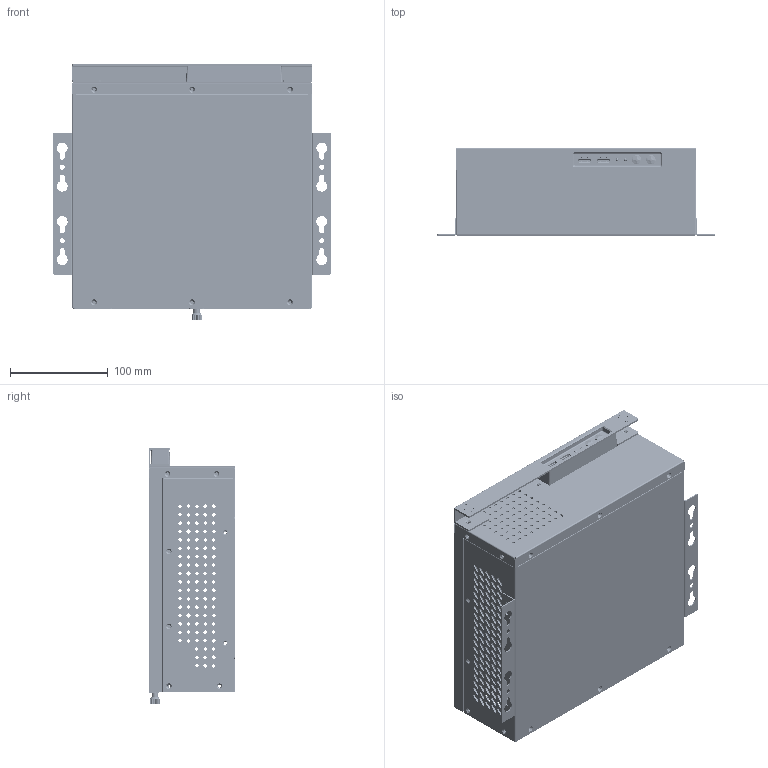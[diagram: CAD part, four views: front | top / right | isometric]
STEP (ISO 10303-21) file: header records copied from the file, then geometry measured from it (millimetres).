
FILE_DESCRIPTION((''),'2;1');
FILE_NAME('IPC-110_ASM_ASM','2024-11-11T17:05:15',('gcuser'),(''),'CREO PARAMETRIC BY PTC INC, 2023073','CREO PARAMETRIC BY PTC INC, 2023073','');
FILE_SCHEMA(('AUTOMOTIVE_DESIGN { 1 0 10303 214 1 1 1 1 }'));
Products named in the file (60): BSO-M3-7_6; 00_ASM_6-34906_ASM; 000_6-84210; PF15-M3-0_6_1; PF15-M3-0_6_2; PF15-M3-0_6_ASM; 000_6-105509; FAN-8025_6; 000_ASM_6_ASM; FENGSHAN8015_6; 0001_ASM_6_ASM; 00_6-178713; BSO-6_32-8_6; 00_ASM_6-179154_ASM; 0013_6; BSO-6_32-6_6; 0012_ASM_6_ASM; 00_6-225760_1; 00_6-225760_2; 00_6-225760_3; 00_6-225760_4; 00_6-225760_5; 00_6-225760_ASM; FSP500-50FDB-3D_ASM_6_ASM; PCIS265-08-SS-120001_6; 0015_6; IPC-110-0001_6_1; IPC-110-0001_6_2; IPC-110-0001_6_3; IPC-110-0001_6_ASM; 00000_6; ASM0000001_ASM_6_ASM; 00_6-1551928; 00_ASM_6-1552357_ASM; IPC-110-000_6; HD-25-IDE_6_2; HD-25-IDE_6_3; HD-25-IDE_6_4; HD-25-IDE_6_5; HD-25-IDE_6_6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
Assembly tree (86 placements, depth 6):
  IPC-110_ASM_ASM
    IPC-110_ASM_6_ASM
      0001_ASM_6_ASM
        00_ASM_6-34906_ASM
          BSO-M3-7_6
        000_ASM_6_ASM
          000_6-84210
          PF15-M3-0_6_ASM
            PF15-M3-0_6_1
            PF15-M3-0_6_2
          000_6-105509
          FAN-8025_6
        FENGSHAN8015_6
      00_ASM_6-179154_ASM
        00_6-178713
        BSO-6_32-8_6  x4
      0012_ASM_6_ASM
        0013_6
        BSO-6_32-6_6  x2
      00_6-225760_ASM
        00_6-225760_1
        00_6-225760_2
        00_6-225760_3
        00_6-225760_4
        00_6-225760_5
      FSP500-50FDB-3D_ASM_6_ASM
      PCIS265-08-SS-120001_6
      0015_6
      IPC-110-0001_6_ASM  x2
        IPC-110-0001_6_1
        IPC-110-0001_6_2
        IPC-110-0001_6_3
      ASM0000001_ASM_6_ASM
        00000_6
        000_ASM_6_ASM
          000_6-84210
          PF15-M3-0_6_ASM
            PF15-M3-0_6_1
            PF15-M3-0_6_2
          000_6-105509
          FAN-8025_6
      0016_ASM_6_ASM
        00_ASM_6-1552357_ASM
          00_6-1551928
          BSO-6_32-6_6  x4
        IPC-110-000_6
        PF15-M3-0_6_ASM
          PF15-M3-0_6_1
          PF15-M3-0_6_2
        HD-25-IDE_6_ASM  x2
          HD-25-IDE_6_2
          HD-25-IDE_6_3
          HD-25-IDE_6_4
          HD-25-IDE_6_5
          HD-25-IDE_6_6
          HD-25-IDE_6_7
          HD-25-IDE_6_8
          HD-25-IDE_6_9
        TD-60-6_6  x2
      4P0001_6
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Bounding box: 284 x 88.8 x 261.7 mm (x, y, z)
Volume: 476804.8 mm3; surface area: 644313.9 mm2
Topology: 69 solids, 131 shells, 8983 faces, 25811 edges, 17143 vertices
Faces by surface type: plane 5399, cylinder 3003, bspline 215, cone 188, torus 84, sphere 58, extrusion 32, revolution 4
Entity records: 228324 total; most frequent: CARTESIAN_POINT 43917, DIRECTION 32126, ORIENTED_EDGE 29388, EDGE_CURVE 14726, AXIS2_PLACEMENT_3D 11001, VECTOR 9955, LINE 9925, VERTEX_POINT 9629
